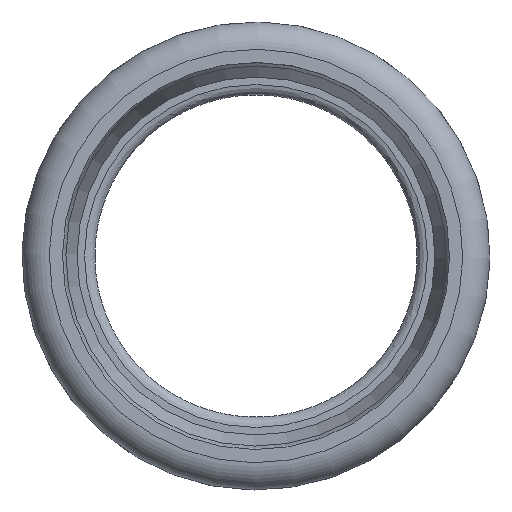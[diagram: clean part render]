
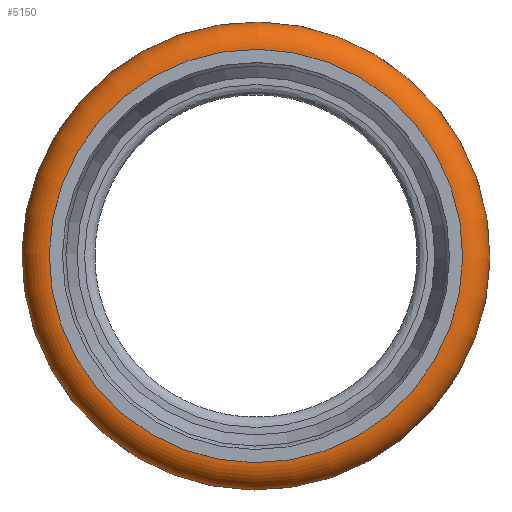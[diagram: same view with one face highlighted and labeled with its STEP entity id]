
A CAD part, left-side view. The second image highlights one B-rep face of the part: STEP entity #5150.
In plain terms, the highlighted toroidal (fillet/blend) face has major radius 41.65 mm and minor radius 5.5 mm.
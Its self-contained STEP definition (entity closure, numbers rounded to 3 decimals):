
#5064=CARTESIAN_POINT('',(-54.237,44.4,0.0));
#5065=VERTEX_POINT('',#5064);
#5066=CARTESIAN_POINT('',(-54.237,0.,0.0));
#5067=DIRECTION('',(1.0,0.0,0.0));
#5068=DIRECTION('',(0.0,1.0,0.0));
#5069=AXIS2_PLACEMENT_3D('',#5066,#5067,#5068);
#5070=CIRCLE('',#5069,44.4);
#5071=EDGE_CURVE('',#5065,#5065,#5070,.T.);
#5124=CARTESIAN_POINT('',(-64.5,41.65,0.0));
#5125=VERTEX_POINT('',#5124);
#5126=CARTESIAN_POINT('',(-64.5,0.,0.0));
#5127=DIRECTION('',(1.0,0.0,0.0));
#5128=DIRECTION('',(0.0,1.0,0.0));
#5129=AXIS2_PLACEMENT_3D('',#5126,#5127,#5128);
#5130=CIRCLE('',#5129,41.65);
#5131=EDGE_CURVE('',#5125,#5125,#5130,.T.);
#5139=CARTESIAN_POINT('',(-59.0,0.,0.0));
#5140=DIRECTION('',(1.0,0.,0.0));
#5141=DIRECTION('',(0.0,0.0,-1.0));
#5142=AXIS2_PLACEMENT_3D('',#5139,#5140,#5141);
#5143=TOROIDAL_SURFACE('',#5142,41.65,5.5);
#5144=ORIENTED_EDGE('',*,*,#5071,.F.);
#5145=EDGE_LOOP('',(#5144));
#5146=FACE_OUTER_BOUND('',#5145,.T.);
#5147=ORIENTED_EDGE('',*,*,#5131,.T.);
#5148=EDGE_LOOP('',(#5147));
#5149=FACE_BOUND('',#5148,.T.);
#5150=ADVANCED_FACE('',(#5146,#5149),#5143,.T.);
